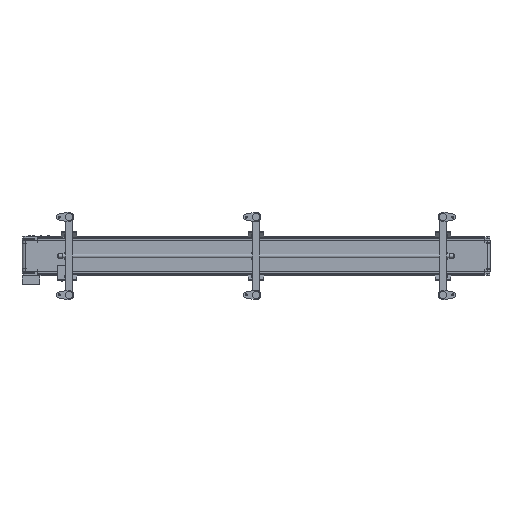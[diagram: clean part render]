
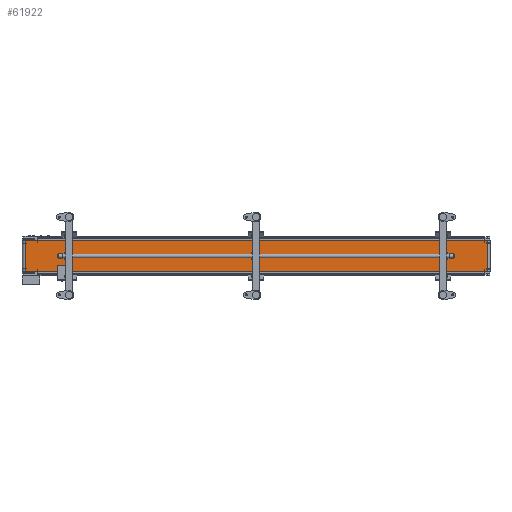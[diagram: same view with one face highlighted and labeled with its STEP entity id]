
A CAD part, front view. The second image highlights one B-rep face of the part: STEP entity #61922.
In plain terms, the highlighted planar face has unit normal (0.004, -1, 0).
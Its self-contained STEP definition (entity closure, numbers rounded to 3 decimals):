
#1086 = VECTOR ( 'NONE', #58284, 1000. ) ;
#1971 = VECTOR ( 'NONE', #15761, 1000. ) ;
#3213 = VECTOR ( 'NONE', #69135, 1000. ) ;
#5395 = CARTESIAN_POINT ( 'NONE',  ( 19.502, -37.7, 100. ) ) ;
#7194 = VERTEX_POINT ( 'NONE', #35041 ) ;
#12857 = EDGE_CURVE ( 'NONE', #16120, #7194, #14439, .T. ) ;
#14439 = LINE ( 'NONE', #68097, #3213 ) ;
#15239 = CARTESIAN_POINT ( 'NONE',  ( 19.502, -37.7, 100. ) ) ;
#15290 = DIRECTION ( 'NONE',  ( 1., 0.004, 0. ) ) ;
#15761 = DIRECTION ( 'NONE',  ( 1., 0.004, 0. ) ) ;
#16120 = VERTEX_POINT ( 'NONE', #40345 ) ;
#25766 = EDGE_CURVE ( 'NONE', #45675, #7194, #33189, .T. ) ;
#28149 = LINE ( 'NONE', #5395, #1086 ) ;
#32916 = DIRECTION ( 'NONE',  ( -1., -0.004, 0. ) ) ;
#33189 = LINE ( 'NONE', #48722, #34091 ) ;
#34091 = VECTOR ( 'NONE', #15290, 1000. ) ;
#35041 = CARTESIAN_POINT ( 'NONE',  ( 2986.054, -26.8, -100. ) ) ;
#37808 = CARTESIAN_POINT ( 'NONE',  ( 19.502, -37.7, -100. ) ) ;
#38587 = DIRECTION ( 'NONE',  ( -0.004, 1., 0. ) ) ;
#40345 = CARTESIAN_POINT ( 'NONE',  ( 2986.054, -26.8, 100. ) ) ;
#43096 = FACE_OUTER_BOUND ( 'NONE', #60507, .T. ) ;
#45675 = VERTEX_POINT ( 'NONE', #37808 ) ;
#47527 = AXIS2_PLACEMENT_3D ( 'NONE', #15239, #38587, #32916 ) ;
#48722 = CARTESIAN_POINT ( 'NONE',  ( 19.502, -37.7, -100. ) ) ;
#50930 = EDGE_CURVE ( 'NONE', #72189, #45675, #28149, .T. ) ;
#55777 = EDGE_CURVE ( 'NONE', #72189, #16120, #62210, .T. ) ;
#57543 = ORIENTED_EDGE ( 'NONE', *, *, #50930, .T. ) ;
#58284 = DIRECTION ( 'NONE',  ( 0., 0., -1. ) ) ;
#60507 = EDGE_LOOP ( 'NONE', ( #72872, #63155, #61280, #57543 ) ) ;
#61280 = ORIENTED_EDGE ( 'NONE', *, *, #55777, .F. ) ;
#61922 = ADVANCED_FACE ( 'NONE', ( #43096 ), #68533, .F. ) ;
#62210 = LINE ( 'NONE', #74718, #1971 ) ;
#63155 = ORIENTED_EDGE ( 'NONE', *, *, #12857, .F. ) ;
#68097 = CARTESIAN_POINT ( 'NONE',  ( 2986.054, -26.8, 100. ) ) ;
#68533 = PLANE ( 'NONE',  #47527 ) ;
#69135 = DIRECTION ( 'NONE',  ( 0., 0., -1. ) ) ;
#72105 = CARTESIAN_POINT ( 'NONE',  ( 19.502, -37.7, 100. ) ) ;
#72189 = VERTEX_POINT ( 'NONE', #72105 ) ;
#72872 = ORIENTED_EDGE ( 'NONE', *, *, #25766, .T. ) ;
#74718 = CARTESIAN_POINT ( 'NONE',  ( 19.502, -37.7, 100. ) ) ;
